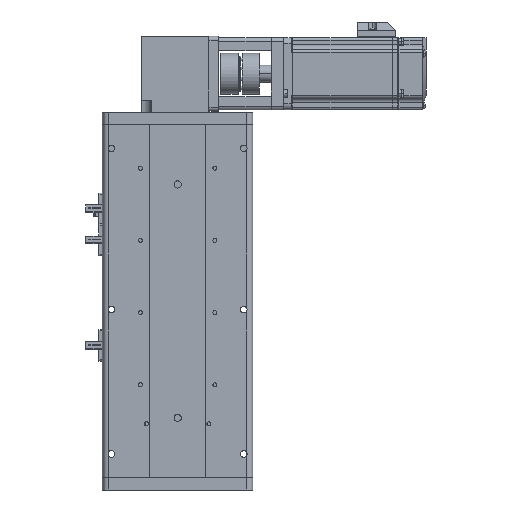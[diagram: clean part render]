
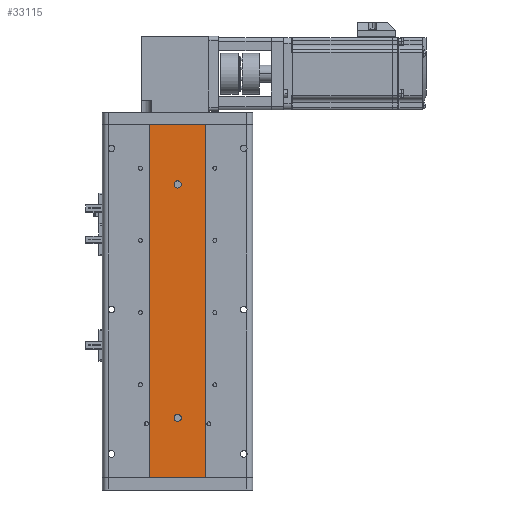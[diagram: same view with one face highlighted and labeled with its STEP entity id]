
A CAD part, front view. The second image highlights one B-rep face of the part: STEP entity #33115.
In plain terms, the highlighted planar face has unit normal (0, -1, 0).
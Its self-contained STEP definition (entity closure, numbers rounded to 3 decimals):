
#1869 = LINE ( 'NONE', #30779, #13659 ) ;
#2160 = VERTEX_POINT ( 'NONE', #43115 ) ;
#2688 = EDGE_CURVE ( 'NONE', #20673, #49087, #23109, .T. ) ;
#5315 = AXIS2_PLACEMENT_3D ( 'NONE', #6520, #20048, #50947 ) ;
#5981 = ORIENTED_EDGE ( 'NONE', *, *, #20619, .T. ) ;
#6520 = CARTESIAN_POINT ( 'NONE',  ( 23., 1., 147.001 ) ) ;
#6823 = FACE_BOUND ( 'NONE', #17414, .T. ) ;
#8871 = CARTESIAN_POINT ( 'NONE',  ( 23., 1., 147. ) ) ;
#9637 = CARTESIAN_POINT ( 'NONE',  ( 0., 1., 97. ) ) ;
#11529 = VECTOR ( 'NONE', #48653, 1000. ) ;
#11614 = EDGE_CURVE ( 'NONE', #12711, #38454, #36435, .T. ) ;
#12711 = VERTEX_POINT ( 'NONE', #25863 ) ;
#13489 = CARTESIAN_POINT ( 'NONE',  ( 0., 1., -97. ) ) ;
#13659 = VECTOR ( 'NONE', #17622, 1000. ) ;
#14081 = DIRECTION ( 'NONE',  ( 0., 0., -1. ) ) ;
#15932 = VERTEX_POINT ( 'NONE', #44779 ) ;
#15958 = CIRCLE ( 'NONE', #43421, 3. ) ;
#17414 = EDGE_LOOP ( 'NONE', ( #46541, #32257 ) ) ;
#17622 = DIRECTION ( 'NONE',  ( 0., 0., -1. ) ) ;
#17946 = DIRECTION ( 'NONE',  ( 0., 0., -1. ) ) ;
#18025 = AXIS2_PLACEMENT_3D ( 'NONE', #9637, #40508, #14081 ) ;
#18612 = FACE_OUTER_BOUND ( 'NONE', #31105, .T. ) ;
#19349 = EDGE_CURVE ( 'NONE', #15932, #37090, #29930, .T. ) ;
#19664 = CARTESIAN_POINT ( 'NONE',  ( 0., 1., -94. ) ) ;
#20048 = DIRECTION ( 'NONE',  ( 0., 1., 0. ) ) ;
#20500 = AXIS2_PLACEMENT_3D ( 'NONE', #13489, #44374, #17946 ) ;
#20619 = EDGE_CURVE ( 'NONE', #2160, #35894, #48018, .T. ) ;
#20673 = VERTEX_POINT ( 'NONE', #19664 ) ;
#21193 = AXIS2_PLACEMENT_3D ( 'NONE', #25221, #56071, #29680 ) ;
#23109 = CIRCLE ( 'NONE', #20500, 3. ) ;
#23784 = CIRCLE ( 'NONE', #18025, 3. ) ;
#23876 = CARTESIAN_POINT ( 'NONE',  ( 0., 1., 100. ) ) ;
#24082 = DIRECTION ( 'NONE',  ( 0., -1., 0. ) ) ;
#24381 = DIRECTION ( 'NONE',  ( 0., 0., -1. ) ) ;
#25221 = CARTESIAN_POINT ( 'NONE',  ( 0., 1., 97. ) ) ;
#25863 = CARTESIAN_POINT ( 'NONE',  ( -23., 1., 147. ) ) ;
#28200 = CARTESIAN_POINT ( 'NONE',  ( 23., 1., -147. ) ) ;
#29680 = DIRECTION ( 'NONE',  ( 0., 0., -1. ) ) ;
#29930 = CIRCLE ( 'NONE', #21193, 3. ) ;
#30266 = ORIENTED_EDGE ( 'NONE', *, *, #57228, .T. ) ;
#30779 = CARTESIAN_POINT ( 'NONE',  ( 23., 1., 147.001 ) ) ;
#30862 = ORIENTED_EDGE ( 'NONE', *, *, #11614, .F. ) ;
#31105 = EDGE_LOOP ( 'NONE', ( #30266, #5981, #44930, #30862 ) ) ;
#31435 = CARTESIAN_POINT ( 'NONE',  ( 23., 1., 147. ) ) ;
#32257 = ORIENTED_EDGE ( 'NONE', *, *, #55018, .F. ) ;
#33115 = ADVANCED_FACE ( 'NONE', ( #6823, #53854, #18612 ), #50764, .F. ) ;
#33867 = EDGE_CURVE ( 'NONE', #38454, #35894, #1869, .T. ) ;
#35894 = VERTEX_POINT ( 'NONE', #54622 ) ;
#36435 = LINE ( 'NONE', #8871, #11529 ) ;
#37090 = VERTEX_POINT ( 'NONE', #23876 ) ;
#38454 = VERTEX_POINT ( 'NONE', #31435 ) ;
#40508 = DIRECTION ( 'NONE',  ( 0., -1., 0. ) ) ;
#43115 = CARTESIAN_POINT ( 'NONE',  ( -23., 1., -147. ) ) ;
#43421 = AXIS2_PLACEMENT_3D ( 'NONE', #50541, #24082, #54953 ) ;
#44230 = ORIENTED_EDGE ( 'NONE', *, *, #2688, .F. ) ;
#44374 = DIRECTION ( 'NONE',  ( 0., -1., 0. ) ) ;
#44779 = CARTESIAN_POINT ( 'NONE',  ( 0., 1., 94. ) ) ;
#44930 = ORIENTED_EDGE ( 'NONE', *, *, #33867, .F. ) ;
#46128 = VECTOR ( 'NONE', #24381, 1000. ) ;
#46362 = CARTESIAN_POINT ( 'NONE',  ( -23., 1., 147.001 ) ) ;
#46541 = ORIENTED_EDGE ( 'NONE', *, *, #19349, .F. ) ;
#46650 = VECTOR ( 'NONE', #54601, 1000. ) ;
#47489 = LINE ( 'NONE', #46362, #46128 ) ;
#47665 = EDGE_CURVE ( 'NONE', #49087, #20673, #15958, .T. ) ;
#48018 = LINE ( 'NONE', #28200, #46650 ) ;
#48653 = DIRECTION ( 'NONE',  ( 1., 0., 0. ) ) ;
#49087 = VERTEX_POINT ( 'NONE', #53114 ) ;
#50541 = CARTESIAN_POINT ( 'NONE',  ( 0., 1., -97. ) ) ;
#50764 = PLANE ( 'NONE',  #5315 ) ;
#50947 = DIRECTION ( 'NONE',  ( 0., 0., 1. ) ) ;
#53114 = CARTESIAN_POINT ( 'NONE',  ( 0., 1., -100. ) ) ;
#53854 = FACE_BOUND ( 'NONE', #54408, .T. ) ;
#54408 = EDGE_LOOP ( 'NONE', ( #54604, #44230 ) ) ;
#54601 = DIRECTION ( 'NONE',  ( 1., 0., 0. ) ) ;
#54604 = ORIENTED_EDGE ( 'NONE', *, *, #47665, .F. ) ;
#54622 = CARTESIAN_POINT ( 'NONE',  ( 23., 1., -147. ) ) ;
#54953 = DIRECTION ( 'NONE',  ( 0., 0., -1. ) ) ;
#55018 = EDGE_CURVE ( 'NONE', #37090, #15932, #23784, .T. ) ;
#56071 = DIRECTION ( 'NONE',  ( 0., -1., 0. ) ) ;
#57228 = EDGE_CURVE ( 'NONE', #12711, #2160, #47489, .T. ) ;
